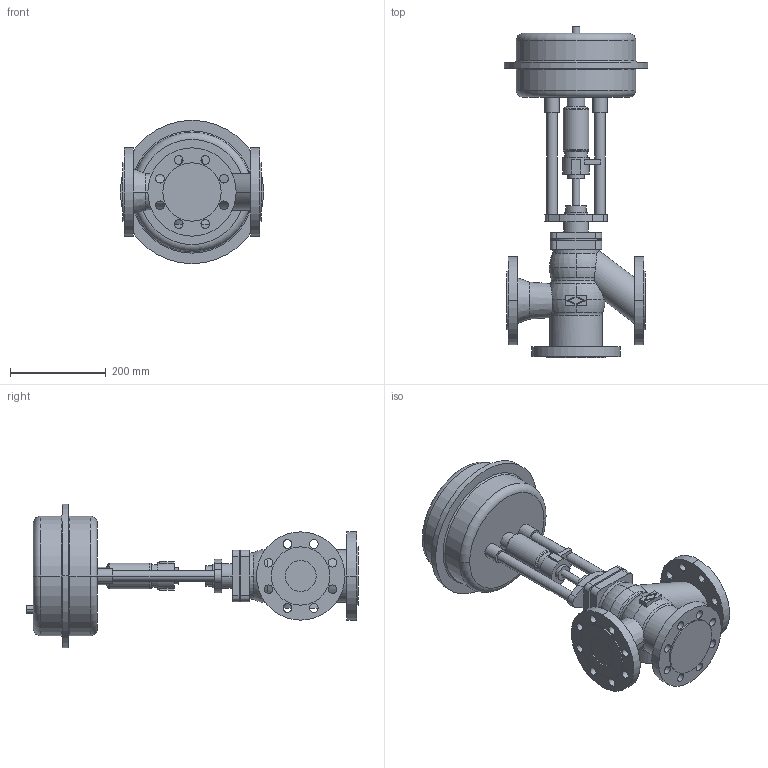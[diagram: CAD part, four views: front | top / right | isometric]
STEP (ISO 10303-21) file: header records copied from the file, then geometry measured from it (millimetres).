
FILE_DESCRIPTION(('OneSpaceDesigner STEP Export'),'2;1');
FILE_NAME('c000000686.stp','2006-09-19T10:13:19',(''),(''),'OneSpace Designer STEP processor for AP214 (Solid Model)','OneSpace Designer 13.20A 18-Aug-2005 (C) CoCreate Software GmbH','');
FILE_SCHEMA(('AUTOMOTIVE_DESIGN { 1 0 10303 214 1 1 1 1 }'));
Length unit declared in the file: millimetre
Products named in the file (2): 1; 2
Bounding box: 300 x 695.1 x 300 mm (x, y, z)
Volume: 12355386.8 mm3; surface area: 667281.2 mm2
Topology: 2 solids, 2 shells, 242 faces, 612 edges, 402 vertices
Faces by surface type: cylinder 120, plane 77, torus 37, cone 8
Entity records: 6663 total; most frequent: CARTESIAN_POINT 1367, ORIENTED_EDGE 1224, DIRECTION 932, EDGE_CURVE 612, VERTEX_POINT 402, AXIS2_PLACEMENT_3D 347, EDGE_LOOP 318, FACE_OUTER_BOUND 242
